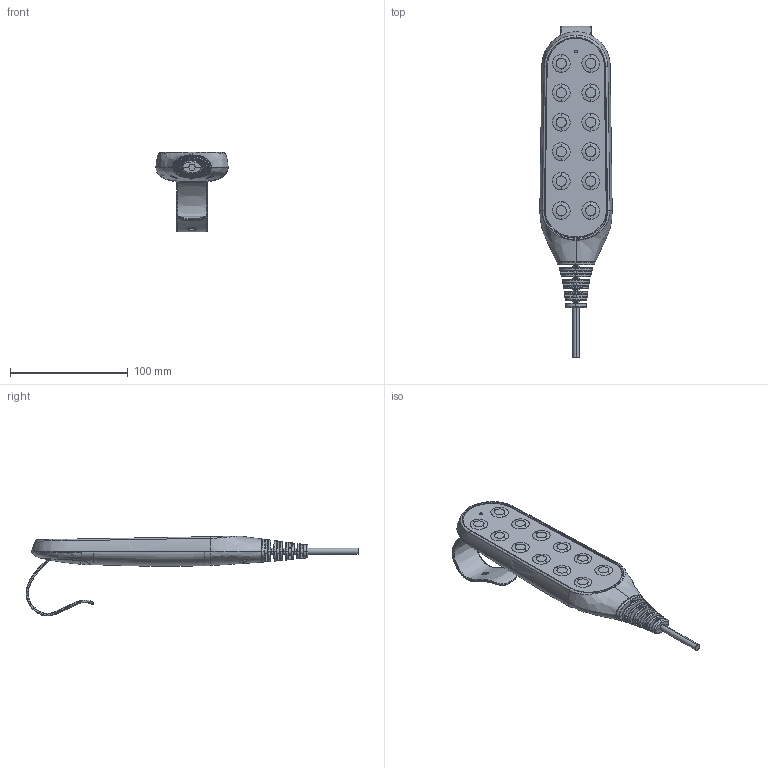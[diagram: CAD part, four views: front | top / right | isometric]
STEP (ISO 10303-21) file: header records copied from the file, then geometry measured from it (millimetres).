
FILE_DESCRIPTION (( 'STEP AP203' ), '1' );
FILE_NAME ('3D_TMH16.STEP', '2019-01-29T05:50:32', ( '' ), ( '' ), 'SwSTEP 2.0', 'SolidWorks 2015', '' );
FILE_SCHEMA (( 'CONFIG_CONTROL_DESIGN' ));
Length unit declared in the file: millimetre
Products named in the file (2): 3D_TMH16
Bounding box: 61.44 x 281.98 x 67.69 mm (x, y, z)
Volume: 226192.3 mm3; surface area: 83030.7 mm2
Topology: 9 solids, 9 shells, 595 faces, 1452 edges, 898 vertices
Faces by surface type: bspline 278, plane 176, cylinder 139, cone 2
Entity records: 57093 total; most frequent: CARTESIAN_POINT 45552, ORIENTED_EDGE 2896, DIRECTION 1571, EDGE_CURVE 1448, VERTEX_POINT 898, B_SPLINE_CURVE_WITH_KNOTS 703, EDGE_LOOP 628, FACE_OUTER_BOUND 595
